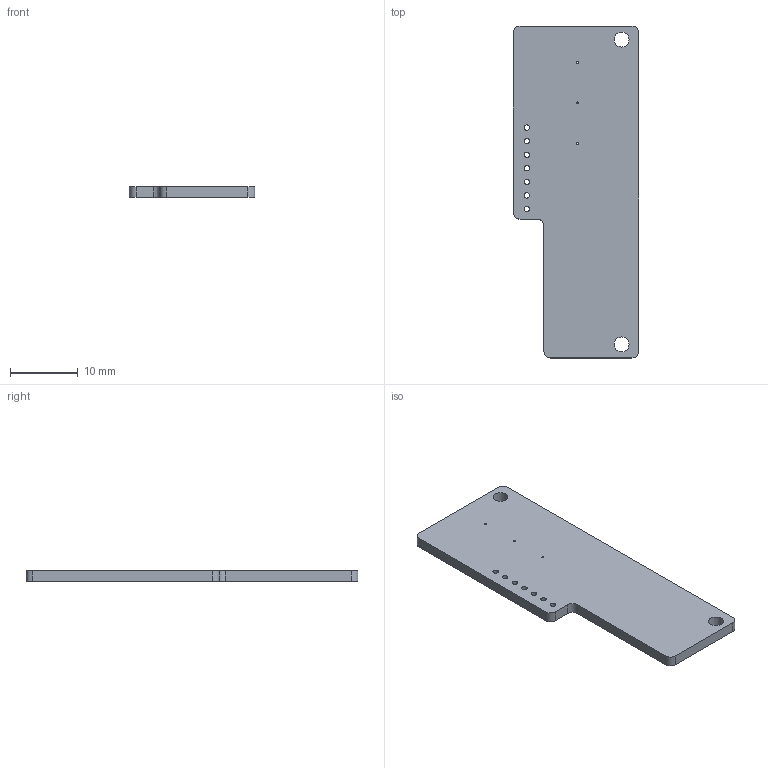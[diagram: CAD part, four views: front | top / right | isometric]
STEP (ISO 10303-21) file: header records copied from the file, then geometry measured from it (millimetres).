
FILE_DESCRIPTION(('Open CASCADE Model'),'2;1');
FILE_NAME('Open CASCADE Shape Model','2026-11-07T09:29:14',('Author'),( 'Open CASCADE'),'Open CASCADE STEP processor 7.9','Open CASCADE 7.9' ,'Unknown');
FILE_SCHEMA(('AUTOMOTIVE_DESIGN { 1 0 10303 214 1 1 1 1 }'));
Length unit declared in the file: millimetre
Products named in the file (1): Open CASCADE STEP translator 7.9 2
Bounding box: 18.52 x 49 x 1.6 mm (x, y, z)
Volume: 1284.4 mm3; surface area: 1872.3 mm2
Topology: 1 solids, 1 shells, 26 faces, 72 edges, 48 vertices
Faces by surface type: cylinder 18, plane 8
Full cylindrical faces by diameter (mm): 0.3 x3, 0.8 x7, 2.2 x2
Entity records: 1858 total; most frequent: CARTESIAN_POINT 315, DIRECTION 302, ORIENTED_EDGE 144, LINE 144, VECTOR 144, PCURVE 144, DEFINITIONAL_REPRESENTATION 144, EDGE_CURVE 72
